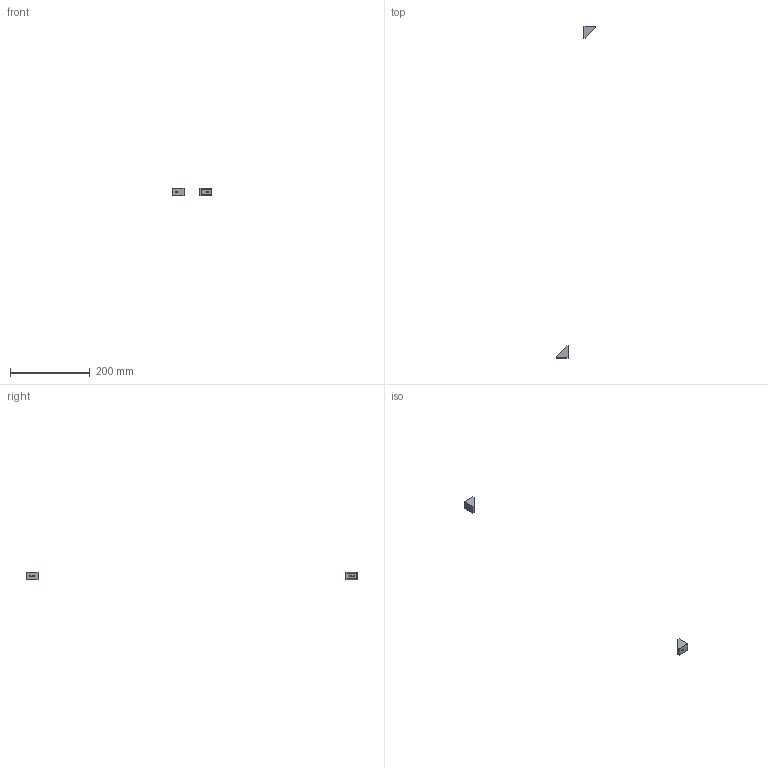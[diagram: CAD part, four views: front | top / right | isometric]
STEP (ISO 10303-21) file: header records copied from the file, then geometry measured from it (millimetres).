
FILE_DESCRIPTION(/* description */ (''),/* implementation_level */ '2;1');
FILE_NAME(/* name */ '4.frame-door#4.2#HBLFSN5',/* time_stamp */ '2014-12-01T20:12:33+01:00',/* author */ (''),/* organization */ (''),/* preprocessor_version */ 'ST-DEVELOPER v14',/* originating_system */ '',/* authorisation */ '');
FILE_SCHEMA (('AUTOMOTIVE_DESIGN'));
Length unit declared in the file: millimetre
Products named in the file (2): Document; angle bracket, single
Assembly tree (2 placements, depth 2):
  Document
    angle bracket, single  x2
Bounding box: 100 x 830 x 20 mm (x, y, z)
Volume: 12710.5 mm3; surface area: 8438.6 mm2
Topology: 2 solids, 2 shells, 36 faces, 88 edges, 56 vertices
Faces by surface type: plane 24, bspline 12
Entity records: 1318 total; most frequent: CARTESIAN_POINT 660, B_SPLINE_CURVE_WITH_KNOTS 114, ORIENTED_EDGE 88, PCURVE 88, DEFINITIONAL_REPRESENTATION 88, SURFACE_CURVE 44, EDGE_CURVE 44, VERTEX_POINT 28
